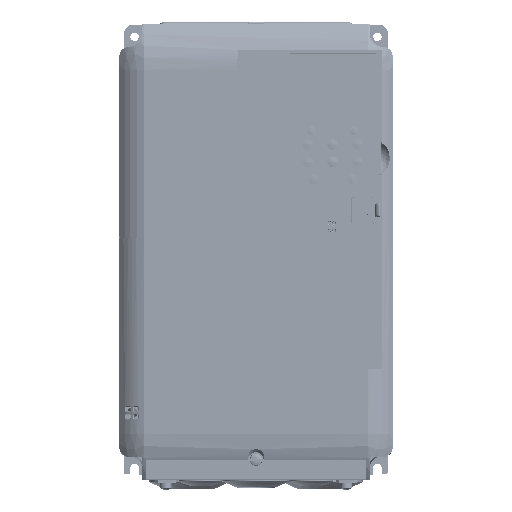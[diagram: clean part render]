
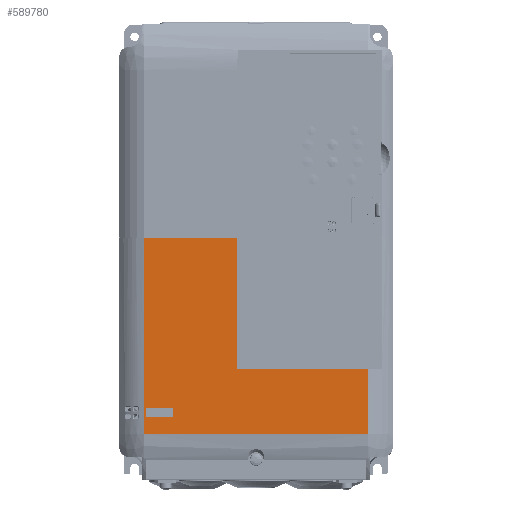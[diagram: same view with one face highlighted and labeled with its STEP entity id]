
A CAD part, top view. The second image highlights one B-rep face of the part: STEP entity #589780.
In plain terms, the highlighted planar face has unit normal (0, 0, 1).
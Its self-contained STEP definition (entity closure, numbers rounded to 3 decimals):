
#573741=DIRECTION('',(0.,-1.,0.));
#573742=VECTOR('',#573741,86.5);
#573743=CARTESIAN_POINT('',(-12.5,16.5,187.));
#573744=LINE('',#573743,#573742);
#573745=DIRECTION('',(-1.,0.,0.));
#573746=VECTOR('',#573745,86.5);
#573747=CARTESIAN_POINT('',(74.,-70.,187.));
#573748=LINE('',#573747,#573746);
#573749=DIRECTION('',(0.,1.,0.));
#573750=VECTOR('',#573749,42.5);
#573751=CARTESIAN_POINT('',(74.,-112.5,187.));
#573752=LINE('',#573751,#573750);
#573753=DIRECTION('',(1.,0.,0.));
#573754=VECTOR('',#573753,148.);
#573755=CARTESIAN_POINT('',(-74.,-112.5,187.));
#573756=LINE('',#573755,#573754);
#573757=DIRECTION('',(0.,-1.,0.));
#573758=VECTOR('',#573757,129.);
#573759=CARTESIAN_POINT('',(-74.,16.5,187.));
#573760=LINE('',#573759,#573758);
#573761=DIRECTION('',(-1.,0.,0.));
#573762=VECTOR('',#573761,61.5);
#573763=CARTESIAN_POINT('',(-12.5,16.5,187.));
#573764=LINE('',#573763,#573762);
#573801=CARTESIAN_POINT('',(-71.6,-96.25,187.));
#573802=DIRECTION('',(0.,0.,1.));
#573803=DIRECTION('',(0.,1.,0.));
#573804=AXIS2_PLACEMENT_3D('',#573801,#573802,#573803);
#573806=DIRECTION('',(0.,-1.,0.));
#573807=VECTOR('',#573806,4.5);
#573808=CARTESIAN_POINT('',(-72.4,-96.25,187.));
#573809=LINE('',#573808,#573807);
#573810=CARTESIAN_POINT('',(-71.6,-100.75,187.));
#573811=DIRECTION('',(0.,0.,1.));
#573812=DIRECTION('',(-1.,0.,0.));
#573813=AXIS2_PLACEMENT_3D('',#573810,#573811,#573812);
#573815=DIRECTION('',(1.,0.,0.));
#573816=VECTOR('',#573815,16.2);
#573817=CARTESIAN_POINT('',(-71.6,-101.55,187.));
#573818=LINE('',#573817,#573816);
#573819=CARTESIAN_POINT('',(-55.4,-100.75,187.));
#573820=DIRECTION('',(0.,0.,1.));
#573821=DIRECTION('',(0.,-1.,0.));
#573822=AXIS2_PLACEMENT_3D('',#573819,#573820,#573821);
#573824=DIRECTION('',(0.,1.,0.));
#573825=VECTOR('',#573824,4.5);
#573826=CARTESIAN_POINT('',(-54.6,-100.75,187.));
#573827=LINE('',#573826,#573825);
#573828=CARTESIAN_POINT('',(-55.4,-96.25,187.));
#573829=DIRECTION('',(0.,0.,1.));
#573830=DIRECTION('',(1.,0.,0.));
#573831=AXIS2_PLACEMENT_3D('',#573828,#573829,#573830);
#573833=DIRECTION('',(-1.,0.,0.));
#573834=VECTOR('',#573833,16.2);
#573835=CARTESIAN_POINT('',(-55.4,-95.45,187.));
#573836=LINE('',#573835,#573834);
#586028=CARTESIAN_POINT('',(-74.,-112.5,187.));
#586029=CARTESIAN_POINT('',(74.,-112.5,187.));
#586030=VERTEX_POINT('',#586028);
#586031=VERTEX_POINT('',#586029);
#588376=CARTESIAN_POINT('',(74.,-70.,187.));
#588377=CARTESIAN_POINT('',(-12.5,-70.,187.));
#588378=VERTEX_POINT('',#588376);
#588379=VERTEX_POINT('',#588377);
#588826=CARTESIAN_POINT('',(-71.6,-95.45,187.));
#588827=CARTESIAN_POINT('',(-72.4,-96.25,187.));
#588828=VERTEX_POINT('',#588826);
#588829=VERTEX_POINT('',#588827);
#588830=CARTESIAN_POINT('',(-72.4,-100.75,187.));
#588831=VERTEX_POINT('',#588830);
#588832=CARTESIAN_POINT('',(-71.6,-101.55,187.));
#588833=VERTEX_POINT('',#588832);
#588834=CARTESIAN_POINT('',(-55.4,-101.55,187.));
#588835=VERTEX_POINT('',#588834);
#588836=CARTESIAN_POINT('',(-54.6,-100.75,187.));
#588837=VERTEX_POINT('',#588836);
#588838=CARTESIAN_POINT('',(-54.6,-96.25,187.));
#588839=VERTEX_POINT('',#588838);
#588840=CARTESIAN_POINT('',(-55.4,-95.45,187.));
#588841=VERTEX_POINT('',#588840);
#589703=CARTESIAN_POINT('',(-74.,16.5,187.));
#589704=VERTEX_POINT('',#589703);
#589721=CARTESIAN_POINT('',(-12.5,16.5,187.));
#589722=VERTEX_POINT('',#589721);
#589743=CARTESIAN_POINT('',(0.,0.,187.));
#589744=DIRECTION('',(0.,0.,1.));
#589745=DIRECTION('',(1.,0.,0.));
#589746=AXIS2_PLACEMENT_3D('',#589743,#589744,#589745);
#589747=PLANE('',#589746);
#589749=ORIENTED_EDGE('',*,*,#589748,.T.);
#589751=ORIENTED_EDGE('',*,*,#589750,.F.);
#589753=ORIENTED_EDGE('',*,*,#589752,.F.);
#589755=ORIENTED_EDGE('',*,*,#589754,.F.);
#589757=ORIENTED_EDGE('',*,*,#589756,.F.);
#589759=ORIENTED_EDGE('',*,*,#589758,.F.);
#589760=EDGE_LOOP('',(#589749,#589751,#589753,#589755,#589757,#589759));
#589761=FACE_OUTER_BOUND('',#589760,.F.);
#589763=ORIENTED_EDGE('',*,*,#589762,.T.);
#589765=ORIENTED_EDGE('',*,*,#589764,.T.);
#589767=ORIENTED_EDGE('',*,*,#589766,.T.);
#589769=ORIENTED_EDGE('',*,*,#589768,.T.);
#589771=ORIENTED_EDGE('',*,*,#589770,.T.);
#589773=ORIENTED_EDGE('',*,*,#589772,.T.);
#589775=ORIENTED_EDGE('',*,*,#589774,.T.);
#589777=ORIENTED_EDGE('',*,*,#589776,.T.);
#589778=EDGE_LOOP('',(#589763,#589765,#589767,#589769,#589771,#589773,#589775,
#589777));
#589779=FACE_BOUND('',#589778,.F.);
#589780=ADVANCED_FACE('',(#589761,#589779),#589747,.T.);
#573805=CIRCLE('',#573804,0.8);
#573814=CIRCLE('',#573813,0.8);
#573823=CIRCLE('',#573822,0.8);
#573832=CIRCLE('',#573831,0.8);
#589748=EDGE_CURVE('',#589722,#588379,#573744,.T.);
#589750=EDGE_CURVE('',#588378,#588379,#573748,.T.);
#589752=EDGE_CURVE('',#586031,#588378,#573752,.T.);
#589754=EDGE_CURVE('',#586030,#586031,#573756,.T.);
#589756=EDGE_CURVE('',#589704,#586030,#573760,.T.);
#589758=EDGE_CURVE('',#589722,#589704,#573764,.T.);
#589762=EDGE_CURVE('',#588828,#588829,#573805,.T.);
#589764=EDGE_CURVE('',#588829,#588831,#573809,.T.);
#589766=EDGE_CURVE('',#588831,#588833,#573814,.T.);
#589768=EDGE_CURVE('',#588833,#588835,#573818,.T.);
#589770=EDGE_CURVE('',#588835,#588837,#573823,.T.);
#589772=EDGE_CURVE('',#588837,#588839,#573827,.T.);
#589774=EDGE_CURVE('',#588839,#588841,#573832,.T.);
#589776=EDGE_CURVE('',#588841,#588828,#573836,.T.);
